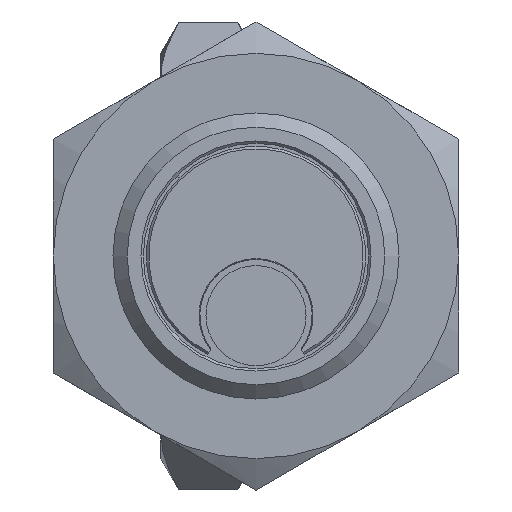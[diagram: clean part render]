
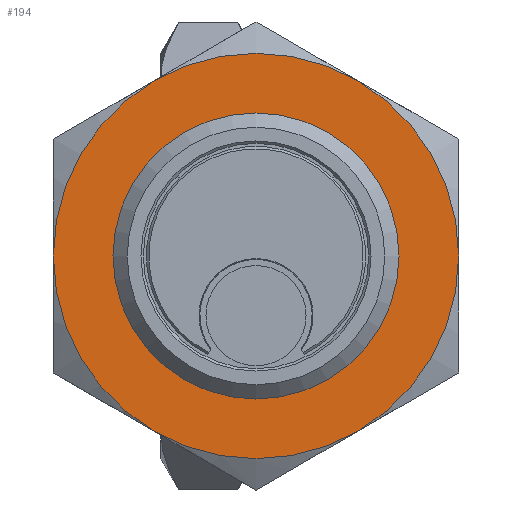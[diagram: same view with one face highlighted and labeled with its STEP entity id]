
A CAD part, left-side view. The second image highlights one B-rep face of the part: STEP entity #194.
In plain terms, the highlighted planar face has unit normal (-1, 0, 0) as drawn and (0, -1, 0) by its records, which use the part's own axes.
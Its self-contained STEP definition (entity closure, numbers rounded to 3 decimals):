
#194 = ADVANCED_FACE( '', ( #251, #252 ), #253, .F. );
#251 = FACE_BOUND( '', #348, .T. );
#252 = FACE_OUTER_BOUND( '', #349, .T. );
#253 = PLANE( '', #350 );
#348 = EDGE_LOOP( '', ( #525 ) );
#349 = EDGE_LOOP( '', ( #526, #527, #528, #529, #530, #531 ) );
#350 = AXIS2_PLACEMENT_3D( '', #532, #533, #534 );
#525 = ORIENTED_EDGE( '', *, *, #736, .F. );
#526 = ORIENTED_EDGE( '', *, *, #732, .F. );
#527 = ORIENTED_EDGE( '', *, *, #734, .F. );
#528 = ORIENTED_EDGE( '', *, *, #737, .F. );
#529 = ORIENTED_EDGE( '', *, *, #738, .F. );
#530 = ORIENTED_EDGE( '', *, *, #733, .F. );
#531 = ORIENTED_EDGE( '', *, *, #730, .F. );
#532 = CARTESIAN_POINT( '', ( 8.5, 0., 14.722 ) );
#533 = DIRECTION( '', ( 0., 1., 0. ) );
#534 = DIRECTION( '', ( 0., 0., 1. ) );
#730 = EDGE_CURVE( '', #825, #818, #842, .T. );
#732 = EDGE_CURVE( '', #843, #825, #845, .T. );
#733 = EDGE_CURVE( '', #818, #839, #846, .T. );
#734 = EDGE_CURVE( '', #803, #843, #847, .T. );
#736 = EDGE_CURVE( '', #849, #849, #850, .T. );
#737 = EDGE_CURVE( '', #794, #803, #851, .T. );
#738 = EDGE_CURVE( '', #839, #794, #852, .T. );
#794 = VERTEX_POINT( '', #933 );
#803 = VERTEX_POINT( '', #967 );
#818 = VERTEX_POINT( '', #1013 );
#825 = VERTEX_POINT( '', #1040 );
#839 = VERTEX_POINT( '', #1076 );
#842 = CIRCLE( '', #1089, 8.5 );
#843 = VERTEX_POINT( '', #1090 );
#845 = CIRCLE( '', #1097, 8.5 );
#846 = CIRCLE( '', #1098, 8.5 );
#847 = CIRCLE( '', #1099, 8.5 );
#849 = VERTEX_POINT( '', #1106 );
#850 = CIRCLE( '', #1107, 5.459 );
#851 = CIRCLE( '', #1108, 8.5 );
#852 = CIRCLE( '', #1109, 8.5 );
#933 = CARTESIAN_POINT( '', ( -4.25, 0., 7.361 ) );
#967 = CARTESIAN_POINT( '', ( 4.25, 0., 7.361 ) );
#1013 = CARTESIAN_POINT( '', ( -4.25, 0., -7.361 ) );
#1040 = CARTESIAN_POINT( '', ( 4.25, 0., -7.361 ) );
#1076 = CARTESIAN_POINT( '', ( -8.5, 0., 0. ) );
#1089 = AXIS2_PLACEMENT_3D( '', #1233, #1234, #1235 );
#1090 = CARTESIAN_POINT( '', ( 8.5, 0., 0. ) );
#1097 = AXIS2_PLACEMENT_3D( '', #1236, #1237, #1238 );
#1098 = AXIS2_PLACEMENT_3D( '', #1239, #1240, #1241 );
#1099 = AXIS2_PLACEMENT_3D( '', #1242, #1243, #1244 );
#1106 = CARTESIAN_POINT( '', ( 5.459, 0., 0. ) );
#1107 = AXIS2_PLACEMENT_3D( '', #1245, #1246, #1247 );
#1108 = AXIS2_PLACEMENT_3D( '', #1248, #1249, #1250 );
#1109 = AXIS2_PLACEMENT_3D( '', #1251, #1252, #1253 );
#1233 = CARTESIAN_POINT( '', ( 0., 0., 0. ) );
#1234 = DIRECTION( '', ( 0., 1., 0. ) );
#1235 = DIRECTION( '', ( 0., 0., 1. ) );
#1236 = CARTESIAN_POINT( '', ( 0., 0., 0. ) );
#1237 = DIRECTION( '', ( 0., 1., 0. ) );
#1238 = DIRECTION( '', ( 0., 0., 1. ) );
#1239 = CARTESIAN_POINT( '', ( 0., 0., 0. ) );
#1240 = DIRECTION( '', ( 0., 1., 0. ) );
#1241 = DIRECTION( '', ( 0., 0., 1. ) );
#1242 = CARTESIAN_POINT( '', ( 0., 0., 0. ) );
#1243 = DIRECTION( '', ( 0., 1., 0. ) );
#1244 = DIRECTION( '', ( 0., 0., 1. ) );
#1245 = CARTESIAN_POINT( '', ( 0., 0., 0. ) );
#1246 = DIRECTION( '', ( 0., -1., 0. ) );
#1247 = DIRECTION( '', ( 1., 0., 0. ) );
#1248 = CARTESIAN_POINT( '', ( 0., 0., 0. ) );
#1249 = DIRECTION( '', ( 0., 1., 0. ) );
#1250 = DIRECTION( '', ( 0., 0., 1. ) );
#1251 = CARTESIAN_POINT( '', ( 0., 0., 0. ) );
#1252 = DIRECTION( '', ( 0., 1., 0. ) );
#1253 = DIRECTION( '', ( 0., 0., 1. ) );
